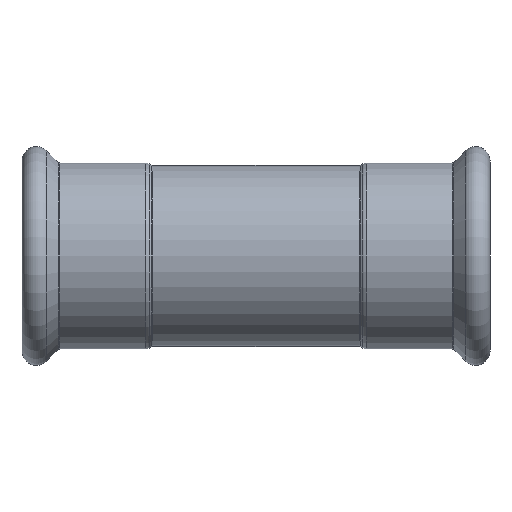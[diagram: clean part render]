
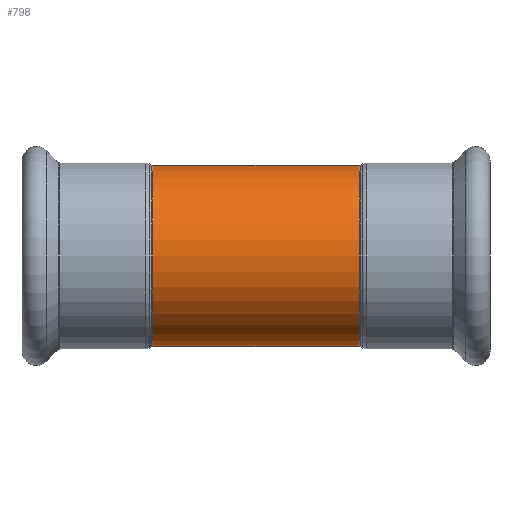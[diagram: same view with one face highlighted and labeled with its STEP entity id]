
A CAD part, front view. The second image highlights one B-rep face of the part: STEP entity #798.
In plain terms, the highlighted cylindrical face has radius 22 mm (diameter 44 mm), a partial arc.
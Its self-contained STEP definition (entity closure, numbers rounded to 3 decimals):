
#379 = DIRECTION ( 'NONE',  ( 0., 0., 1. ) ) ;
#381 = DIRECTION ( 'NONE',  ( -1., 0., 0. ) ) ;
#512 = AXIS2_PLACEMENT_3D ( 'NONE', #1081, #2124, #379 ) ;
#711 = EDGE_CURVE ( 'NONE', #1992, #928, #2416, .T. ) ;
#716 = VERTEX_POINT ( 'NONE', #746 ) ;
#744 = CIRCLE ( 'NONE', #2770, 22. ) ;
#746 = CARTESIAN_POINT ( 'NONE',  ( -25.154, 0., 22. ) ) ;
#798 = ADVANCED_FACE ( 'NONE', ( #4050 ), #2810, .T. ) ;
#815 = DIRECTION ( 'NONE',  ( -1., 0., 0. ) ) ;
#821 = CARTESIAN_POINT ( 'NONE',  ( -25.154, 0., -22. ) ) ;
#865 = DIRECTION ( 'NONE',  ( 0., 0., 1. ) ) ;
#928 = VERTEX_POINT ( 'NONE', #821 ) ;
#990 = VERTEX_POINT ( 'NONE', #2144 ) ;
#1081 = CARTESIAN_POINT ( 'NONE',  ( -25.154, 0., 0. ) ) ;
#1097 = CARTESIAN_POINT ( 'NONE',  ( 27.146, 0., 0. ) ) ;
#1103 = EDGE_CURVE ( 'NONE', #1992, #990, #744, .T. ) ;
#1491 = VECTOR ( 'NONE', #4214, 1000. ) ;
#1620 = LINE ( 'NONE', #3303, #3567 ) ;
#1992 = VERTEX_POINT ( 'NONE', #3568 ) ;
#2124 = DIRECTION ( 'NONE',  ( -1., 0., 0. ) ) ;
#2144 = CARTESIAN_POINT ( 'NONE',  ( 25.154, 0., 22. ) ) ;
#2207 = DIRECTION ( 'NONE',  ( -1., 0., 0. ) ) ;
#2211 = ORIENTED_EDGE ( 'NONE', *, *, #4117, .F. ) ;
#2416 = LINE ( 'NONE', #2839, #1491 ) ;
#2527 = EDGE_LOOP ( 'NONE', ( #4409, #3989, #4329, #2211 ) ) ;
#2770 = AXIS2_PLACEMENT_3D ( 'NONE', #2967, #815, #865 ) ;
#2810 = CYLINDRICAL_SURFACE ( 'NONE', #3456, 22. ) ;
#2827 = EDGE_CURVE ( 'NONE', #990, #716, #1620, .T. ) ;
#2839 = CARTESIAN_POINT ( 'NONE',  ( 27.146, 0., -22. ) ) ;
#2967 = CARTESIAN_POINT ( 'NONE',  ( 25.154, 0., 0. ) ) ;
#3303 = CARTESIAN_POINT ( 'NONE',  ( 27.146, 0., 22. ) ) ;
#3456 = AXIS2_PLACEMENT_3D ( 'NONE', #1097, #381, #3566 ) ;
#3566 = DIRECTION ( 'NONE',  ( 0., 0., 1. ) ) ;
#3567 = VECTOR ( 'NONE', #2207, 1000. ) ;
#3568 = CARTESIAN_POINT ( 'NONE',  ( 25.154, 0., -22. ) ) ;
#3989 = ORIENTED_EDGE ( 'NONE', *, *, #1103, .T. ) ;
#4050 = FACE_OUTER_BOUND ( 'NONE', #2527, .T. ) ;
#4107 = CIRCLE ( 'NONE', #512, 22. ) ;
#4117 = EDGE_CURVE ( 'NONE', #928, #716, #4107, .T. ) ;
#4214 = DIRECTION ( 'NONE',  ( -1., 0., 0. ) ) ;
#4329 = ORIENTED_EDGE ( 'NONE', *, *, #2827, .T. ) ;
#4409 = ORIENTED_EDGE ( 'NONE', *, *, #711, .F. ) ;
